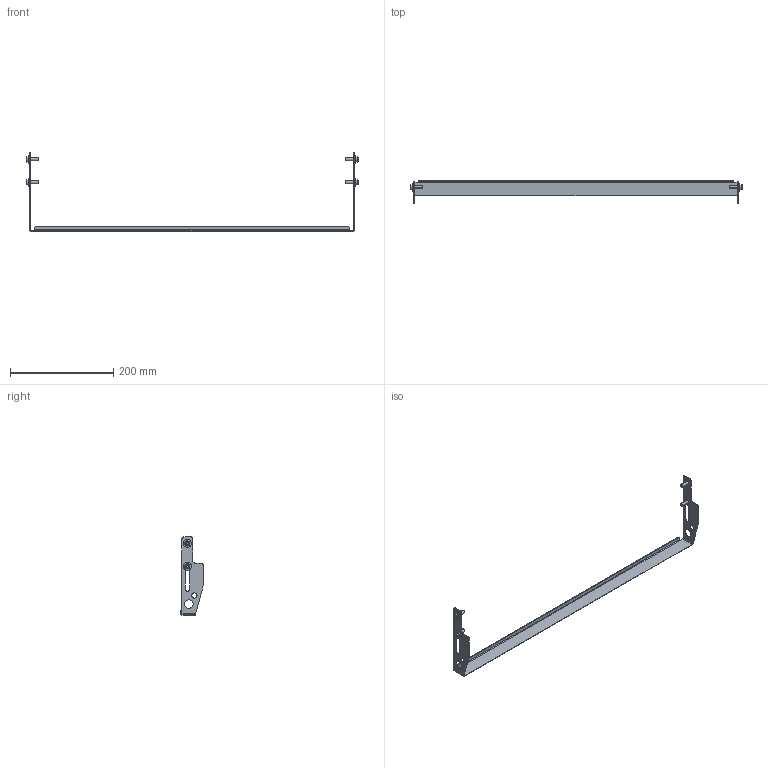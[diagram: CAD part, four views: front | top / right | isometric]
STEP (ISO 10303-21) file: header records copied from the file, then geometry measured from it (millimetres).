
FILE_DESCRIPTION((''),'2;1');
FILE_NAME('207218-24_ASM','2016-06-15T',('adam.dellomodarme'),(''),'PRO/ENGINEER BY PARAMETRIC TECHNOLOGY CORPORATION, 2012420','PRO/ENGINEER BY PARAMETRIC TECHNOLOGY CORPORATION, 2012420','');
FILE_SCHEMA(('CONFIG_CONTROL_DESIGN'));
Length unit declared in the file: inch
Products named in the file (5): 9506XXM_950620M; 605279P; 207125_207125-24; ASM0001_ASM; 207218-24_ASM
Assembly tree (10 placements, depth 3):
  207218-24_ASM
    ASM0001_ASM
      9506XXM_950620M  x4
      605279P  x4
      207125_207125-24
Bounding box: 644.3 x 43.71 x 151.79 mm (x, y, z)
Volume: 41919.1 mm3; surface area: 68047.3 mm2
Topology: 9 solids, 9 shells, 212 faces, 492 edges, 306 vertices
Faces by surface type: plane 90, cylinder 78, cone 44
Entity records: 3963 total; most frequent: CARTESIAN_POINT 715, DIRECTION 705, ORIENTED_EDGE 618, EDGE_CURVE 309, AXIS2_PLACEMENT_3D 265, VERTEX_POINT 198, VECTOR 175, LINE 175
